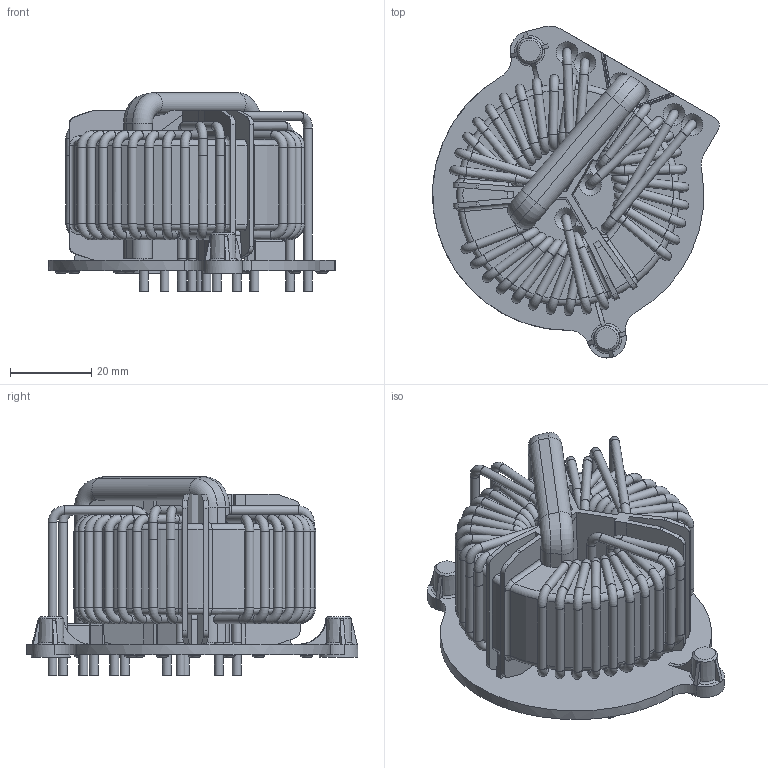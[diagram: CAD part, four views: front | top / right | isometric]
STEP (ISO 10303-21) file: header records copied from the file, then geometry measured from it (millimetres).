
FILE_DESCRIPTION((''),'2;1');
FILE_NAME('K:\Development\Projects\RB\Angel_standard choke series 2011\70_Realization_Revision\702_MechanicalDesign\Drawing for Harald\RB6132\RB6132-36-0M4 .stp','2012-11-08T16:19:41',('BIN.FAN'),(''),'Autodesk Inventor 2010','Autodesk Inventor 2010','');
FILE_SCHEMA(('AUTOMOTIVE_DESIGN { 1 0 10303 214 1 1 1 1 }'));
Length unit declared in the file: millimetre
Products named in the file (1): RB6132-36-0M4 for customer_包覆面提取_1
Bounding box: 70.73 x 81.83 x 48.99 mm (x, y, z)
Volume: 67983.1 mm3; surface area: 45364 mm2
Topology: 1 solids, 1 shells, 1221 faces, 3661 edges, 2232 vertices
Faces by surface type: plane 520, cylinder 343, torus 256, bspline 60, cone 40, sphere 2
Full cylindrical faces by diameter (mm): 2.2 x129, 3 x10, 9.6 x2
Entity records: 46897 total; most frequent: CARTESIAN_POINT 16010, ORIENTED_EDGE 6410, DIRECTION 5781, EDGE_CURVE 3205, AXIS2_PLACEMENT_3D 2227, VERTEX_POINT 2030, EDGE_LOOP 1535, VECTOR 1327
